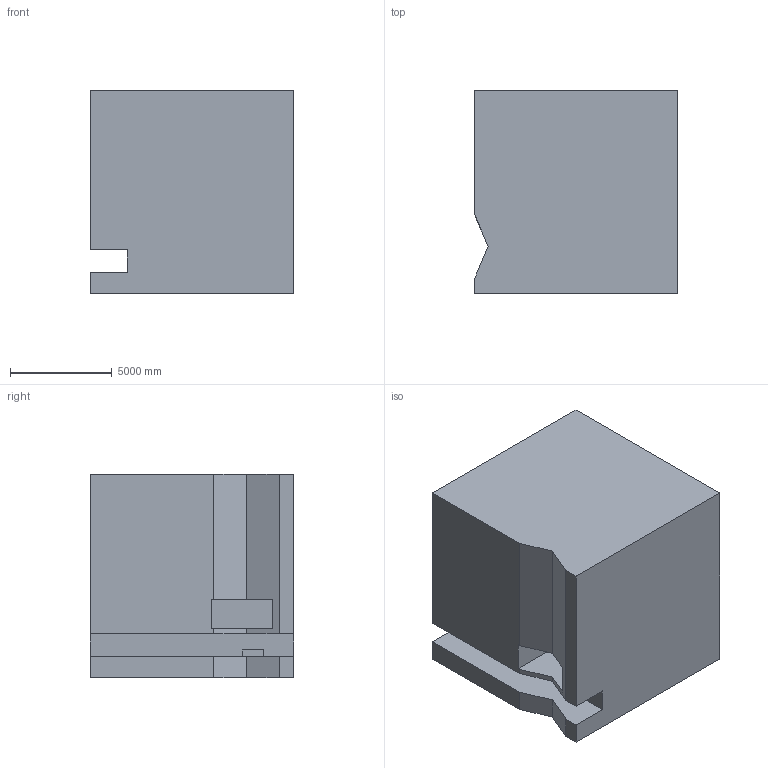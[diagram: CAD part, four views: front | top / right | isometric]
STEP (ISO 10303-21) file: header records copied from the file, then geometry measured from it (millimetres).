
FILE_DESCRIPTION (( 'STEP AP203' ), '1' );
FILE_NAME ('315.STEP', '2022-09-07T15:15:07', ( 'user' ), ( '' ), 'SwSTEP 2.0', 'SolidWorks 2021', '' );
FILE_SCHEMA (( 'CONFIG_CONTROL_DESIGN' ));
Length unit declared in the file: centimetre
Products named in the file (1): 315
Bounding box: 10000 x 10000 x 10000 mm (x, y, z)
Volume: 921042390555.3 mm3; surface area: 697297303.8 mm2
Topology: 1 solids, 1 shells, 34 faces, 96 edges, 64 vertices
Faces by surface type: plane 30, cylinder 4
Entity records: 1169 total; most frequent: CARTESIAN_POINT 195, ORIENTED_EDGE 192, DIRECTION 174, EDGE_CURVE 96, LINE 88, VECTOR 88, VERTEX_POINT 64, AXIS2_PLACEMENT_3D 43
